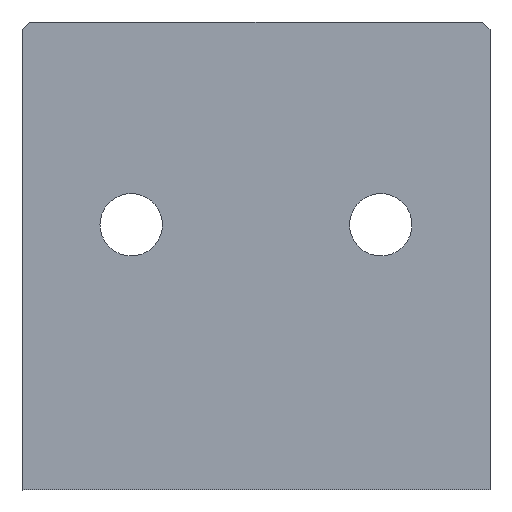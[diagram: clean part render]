
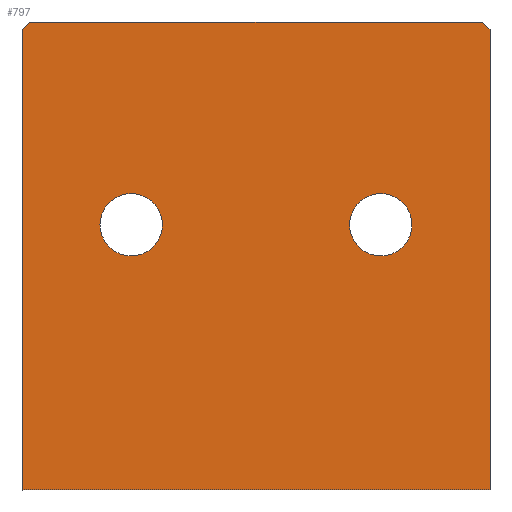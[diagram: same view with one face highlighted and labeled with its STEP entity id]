
A CAD part, front view. The second image highlights one B-rep face of the part: STEP entity #797.
In plain terms, the highlighted planar face has unit normal (0, -1, 0).
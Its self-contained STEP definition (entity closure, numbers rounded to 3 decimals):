
#2 = EDGE_CURVE ( 'NONE', #468, #480, #186, .T. ) ;
#6 = CIRCLE ( 'NONE', #655, 2. ) ;
#39 = VERTEX_POINT ( 'NONE', #330 ) ;
#64 = CARTESIAN_POINT ( 'NONE',  ( -7., 0., 17. ) ) ;
#65 = FACE_BOUND ( 'NONE', #773, .T. ) ;
#69 = CARTESIAN_POINT ( 'NONE',  ( -7., 0., 17. ) ) ;
#74 = ORIENTED_EDGE ( 'NONE', *, *, #303, .T. ) ;
#85 = ORIENTED_EDGE ( 'NONE', *, *, #455, .F. ) ;
#86 = DIRECTION ( 'NONE',  ( 1., 0., 0. ) ) ;
#88 = VERTEX_POINT ( 'NONE', #597 ) ;
#95 = CARTESIAN_POINT ( 'NONE',  ( -30., 0., 30. ) ) ;
#97 = ORIENTED_EDGE ( 'NONE', *, *, #807, .F. ) ;
#115 = DIRECTION ( 'NONE',  ( 0., 0., 1. ) ) ;
#122 = VECTOR ( 'NONE', #416, 1000. ) ;
#138 = CARTESIAN_POINT ( 'NONE',  ( -0.5, 0., 30. ) ) ;
#158 = ORIENTED_EDGE ( 'NONE', *, *, #2, .F. ) ;
#186 = LINE ( 'NONE', #474, #218 ) ;
#203 = AXIS2_PLACEMENT_3D ( 'NONE', #295, #717, #86 ) ;
#207 = CARTESIAN_POINT ( 'NONE',  ( -30., 0., 0. ) ) ;
#208 = VECTOR ( 'NONE', #512, 1000. ) ;
#218 = VECTOR ( 'NONE', #812, 1000. ) ;
#222 = CIRCLE ( 'NONE', #614, 2. ) ;
#227 = CARTESIAN_POINT ( 'NONE',  ( -44.75, 0., 14.75 ) ) ;
#235 = AXIS2_PLACEMENT_3D ( 'NONE', #207, #775, #827 ) ;
#246 = VERTEX_POINT ( 'NONE', #885 ) ;
#248 = VERTEX_POINT ( 'NONE', #492 ) ;
#252 = CARTESIAN_POINT ( 'NONE',  ( -0.25, 0., 29.75 ) ) ;
#255 = DIRECTION ( 'NONE',  ( 1., 0., 0. ) ) ;
#260 = LINE ( 'NONE', #546, #897 ) ;
#268 = EDGE_CURVE ( 'NONE', #88, #781, #6, .T. ) ;
#293 = LINE ( 'NONE', #227, #208 ) ;
#295 = CARTESIAN_POINT ( 'NONE',  ( -23., 0., 17. ) ) ;
#303 = EDGE_CURVE ( 'NONE', #246, #861, #325, .T. ) ;
#313 = CARTESIAN_POINT ( 'NONE',  ( -30., 0., 0. ) ) ;
#314 = CIRCLE ( 'NONE', #638, 2. ) ;
#321 = CARTESIAN_POINT ( 'NONE',  ( 0., 0., 0. ) ) ;
#325 = LINE ( 'NONE', #252, #122 ) ;
#330 = CARTESIAN_POINT ( 'NONE',  ( -29.5, 0., 30. ) ) ;
#354 = DIRECTION ( 'NONE',  ( 0., -1., 0. ) ) ;
#372 = CIRCLE ( 'NONE', #203, 2. ) ;
#382 = ORIENTED_EDGE ( 'NONE', *, *, #268, .F. ) ;
#386 = DIRECTION ( 'NONE',  ( 1., 0., 0. ) ) ;
#389 = EDGE_CURVE ( 'NONE', #39, #480, #293, .T. ) ;
#390 = LINE ( 'NONE', #95, #448 ) ;
#416 = DIRECTION ( 'NONE',  ( -0.707, 0., 0.707 ) ) ;
#424 = PLANE ( 'NONE',  #235 ) ;
#448 = VECTOR ( 'NONE', #255, 1000. ) ;
#455 = EDGE_CURVE ( 'NONE', #39, #861, #390, .T. ) ;
#468 = VERTEX_POINT ( 'NONE', #313 ) ;
#469 = CARTESIAN_POINT ( 'NONE',  ( -30., 0., 29.5 ) ) ;
#474 = CARTESIAN_POINT ( 'NONE',  ( -30., 0., 0. ) ) ;
#480 = VERTEX_POINT ( 'NONE', #469 ) ;
#492 = CARTESIAN_POINT ( 'NONE',  ( -23., 0., 19. ) ) ;
#498 = EDGE_CURVE ( 'NONE', #617, #248, #222, .T. ) ;
#504 = EDGE_CURVE ( 'NONE', #556, #246, #531, .T. ) ;
#512 = DIRECTION ( 'NONE',  ( -0.707, 0., -0.707 ) ) ;
#531 = LINE ( 'NONE', #663, #780 ) ;
#533 = ORIENTED_EDGE ( 'NONE', *, *, #498, .F. ) ;
#539 = EDGE_CURVE ( 'NONE', #468, #556, #260, .T. ) ;
#546 = CARTESIAN_POINT ( 'NONE',  ( -30., 0., 0. ) ) ;
#556 = VERTEX_POINT ( 'NONE', #321 ) ;
#558 = DIRECTION ( 'NONE',  ( 0., -1., 0. ) ) ;
#597 = CARTESIAN_POINT ( 'NONE',  ( -7., 0., 19. ) ) ;
#604 = ORIENTED_EDGE ( 'NONE', *, *, #504, .T. ) ;
#614 = AXIS2_PLACEMENT_3D ( 'NONE', #810, #738, #386 ) ;
#617 = VERTEX_POINT ( 'NONE', #646 ) ;
#623 = DIRECTION ( 'NONE',  ( 1., 0., 0. ) ) ;
#629 = DIRECTION ( 'NONE',  ( 1., 0., 0. ) ) ;
#638 = AXIS2_PLACEMENT_3D ( 'NONE', #69, #354, #629 ) ;
#646 = CARTESIAN_POINT ( 'NONE',  ( -23., 0., 15. ) ) ;
#655 = AXIS2_PLACEMENT_3D ( 'NONE', #64, #558, #623 ) ;
#663 = CARTESIAN_POINT ( 'NONE',  ( 0., 0., 0. ) ) ;
#671 = ORIENTED_EDGE ( 'NONE', *, *, #729, .F. ) ;
#676 = ORIENTED_EDGE ( 'NONE', *, *, #539, .T. ) ;
#697 = EDGE_LOOP ( 'NONE', ( #85, #741, #158, #676, #604, #74 ) ) ;
#717 = DIRECTION ( 'NONE',  ( 0., -1., 0. ) ) ;
#729 = EDGE_CURVE ( 'NONE', #248, #617, #372, .T. ) ;
#738 = DIRECTION ( 'NONE',  ( 0., -1., 0. ) ) ;
#741 = ORIENTED_EDGE ( 'NONE', *, *, #389, .T. ) ;
#760 = FACE_OUTER_BOUND ( 'NONE', #697, .T. ) ;
#767 = FACE_BOUND ( 'NONE', #811, .T. ) ;
#773 = EDGE_LOOP ( 'NONE', ( #382, #97 ) ) ;
#775 = DIRECTION ( 'NONE',  ( 0., -1., 0. ) ) ;
#780 = VECTOR ( 'NONE', #115, 1000. ) ;
#781 = VERTEX_POINT ( 'NONE', #792 ) ;
#792 = CARTESIAN_POINT ( 'NONE',  ( -7., 0., 15. ) ) ;
#797 = ADVANCED_FACE ( 'NONE', ( #767, #65, #760 ), #424, .T. ) ;
#807 = EDGE_CURVE ( 'NONE', #781, #88, #314, .T. ) ;
#810 = CARTESIAN_POINT ( 'NONE',  ( -23., 0., 17. ) ) ;
#811 = EDGE_LOOP ( 'NONE', ( #671, #533 ) ) ;
#812 = DIRECTION ( 'NONE',  ( 0., 0., 1. ) ) ;
#821 = DIRECTION ( 'NONE',  ( 1., 0., 0. ) ) ;
#827 = DIRECTION ( 'NONE',  ( 1., 0., 0. ) ) ;
#861 = VERTEX_POINT ( 'NONE', #138 ) ;
#885 = CARTESIAN_POINT ( 'NONE',  ( 0., 0., 29.5 ) ) ;
#897 = VECTOR ( 'NONE', #821, 1000. ) ;
